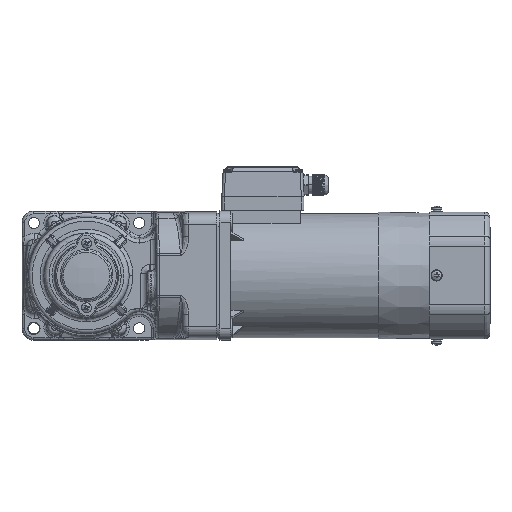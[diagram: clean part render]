
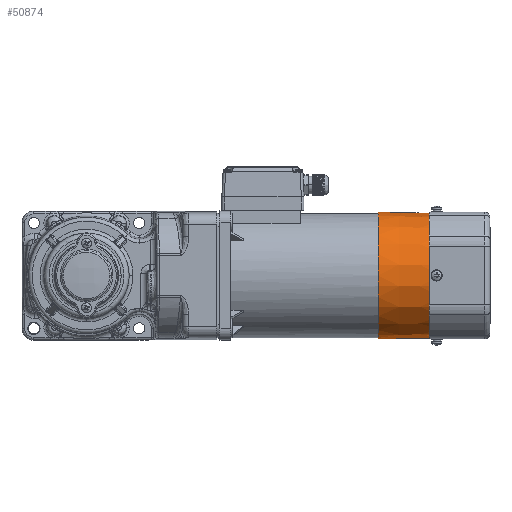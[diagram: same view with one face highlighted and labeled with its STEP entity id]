
A CAD part, top view. The second image highlights one B-rep face of the part: STEP entity #50874.
In plain terms, the highlighted conical face has half-angle 1.005 degrees and reference radius 51 mm.
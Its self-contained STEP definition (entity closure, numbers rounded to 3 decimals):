
#405 = VECTOR ( 'NONE', #30369, 1000. ) ;
#3145 = VERTEX_POINT ( 'NONE', #34652 ) ;
#4246 = CARTESIAN_POINT ( 'NONE',  ( 114.966, -19.101, 126.498 ) ) ;
#6080 = EDGE_CURVE ( 'NONE', #12645, #61389, #80730, .T. ) ;
#8202 = LINE ( 'NONE', #73023, #70675 ) ;
#10469 = CARTESIAN_POINT ( 'NONE',  ( 117.744, -22.731, 126.417 ) ) ;
#11440 = CARTESIAN_POINT ( 'NONE',  ( 116.819, -20.253, 126.461 ) ) ;
#11911 = EDGE_CURVE ( 'NONE', #19024, #12645, #39426, .T. ) ;
#12391 = CARTESIAN_POINT ( 'NONE',  ( 117.624, -21.758, 126.423 ) ) ;
#12645 = VERTEX_POINT ( 'NONE', #63232 ) ;
#18644 = CARTESIAN_POINT ( 'NONE',  ( 113.502, -19.006, 126.479 ) ) ;
#18755 = CIRCLE ( 'NONE', #34110, 51. ) ;
#19024 = VERTEX_POINT ( 'NONE', #64945 ) ;
#19595 = AXIS2_PLACEMENT_3D ( 'NONE', #26386, #25901, #93075 ) ;
#20078 = CARTESIAN_POINT ( 'NONE',  ( 111.015, -20.44, 126.35 ) ) ;
#22892 = DIRECTION ( 'NONE',  ( -1., 0., 0. ) ) ;
#22908 = VECTOR ( 'NONE', #54256, 1000. ) ;
#22915 = CARTESIAN_POINT ( 'NONE',  ( 110.244, -22.484, 126.285 ) ) ;
#25235 = DIRECTION ( 'NONE',  ( 0., 0., 1. ) ) ;
#25838 = CARTESIAN_POINT ( 'NONE',  ( 116.298, -19.732, 126.479 ) ) ;
#25901 = DIRECTION ( 'NONE',  ( -1., 0., 0. ) ) ;
#26322 = CARTESIAN_POINT ( 'NONE',  ( 110.371, -21.756, 126.297 ) ) ;
#26386 = CARTESIAN_POINT ( 'NONE',  ( 144.294, -22.731, 177. ) ) ;
#27753 = CARTESIAN_POINT ( 'NONE',  ( 112.106, -19.454, 126.423 ) ) ;
#28236 = CARTESIAN_POINT ( 'NONE',  ( 110.244, -22.731, 126.285 ) ) ;
#30369 = DIRECTION ( 'NONE',  ( -1., 0., -0.018 ) ) ;
#31490 = B_SPLINE_CURVE_WITH_KNOTS ( 'NONE', 3,
 ( #56986, #77165, #91570, #12391, #71410, #40684, #93472, #41645, #11440, #25838, #85793, #55071, #4246, #70939, #63726, #84373, #18644, #34948, #47907, #27753, #56504, #69980, #20078, #33521, #62743, #55555, #92038, #26322, #84842, #44494, #22915, #28236 ),
 .UNSPECIFIED., .F., .F.,
 ( 4, 2, 2, 2, 2, 2, 2, 2, 2, 2, 2, 2, 2, 2, 2, 4 ),
 ( 0., 0.063, 0.125, 0.188, 0.25, 0.375, 0.438, 0.5, 0.563, 0.625, 0.75, 0.812, 0.875, 0.906, 0.937, 1. ),
 .UNSPECIFIED. ) ;
#32704 = CARTESIAN_POINT ( 'NONE',  ( 93.994, -22.731, 228. ) ) ;
#33521 = CARTESIAN_POINT ( 'NONE',  ( 110.741, -20.85, 126.328 ) ) ;
#34110 = AXIS2_PLACEMENT_3D ( 'NONE', #48712, #77978, #25235 ) ;
#34652 = CARTESIAN_POINT ( 'NONE',  ( 93.994, -22.731, 228. ) ) ;
#34948 = CARTESIAN_POINT ( 'NONE',  ( 113.021, -19.101, 126.464 ) ) ;
#35865 = CARTESIAN_POINT ( 'NONE',  ( 93.994, -22.731, 177. ) ) ;
#36024 = EDGE_CURVE ( 'NONE', #61389, #88955, #31490, .T. ) ;
#39426 = CIRCLE ( 'NONE', #19595, 50.118 ) ;
#40050 = EDGE_CURVE ( 'NONE', #88955, #58856, #8202, .T. ) ;
#40684 = CARTESIAN_POINT ( 'NONE',  ( 117.364, -21.069, 126.437 ) ) ;
#40816 = ORIENTED_EDGE ( 'NONE', *, *, #11911, .T. ) ;
#41645 = CARTESIAN_POINT ( 'NONE',  ( 116.976, -20.444, 126.455 ) ) ;
#41904 = CARTESIAN_POINT ( 'NONE',  ( 110.244, -22.731, 126.285 ) ) ;
#44494 = CARTESIAN_POINT ( 'NONE',  ( 110.269, -22.238, 126.287 ) ) ;
#45694 = EDGE_LOOP ( 'NONE', ( #40816, #69826, #80866, #82029, #83677, #47846 ) ) ;
#47846 = ORIENTED_EDGE ( 'NONE', *, *, #65395, .F. ) ;
#47907 = CARTESIAN_POINT ( 'NONE',  ( 112.788, -19.172, 126.455 ) ) ;
#48712 = CARTESIAN_POINT ( 'NONE',  ( 93.994, -22.731, 177. ) ) ;
#50874 = ADVANCED_FACE ( 'NONE', ( #88615 ), #69960, .T. ) ;
#52131 = DIRECTION ( 'NONE',  ( 0., 0., 1. ) ) ;
#54256 = DIRECTION ( 'NONE',  ( -1., 0., 0.018 ) ) ;
#55071 = CARTESIAN_POINT ( 'NONE',  ( 115.202, -19.173, 126.497 ) ) ;
#55555 = CARTESIAN_POINT ( 'NONE',  ( 110.484, -21.408, 126.306 ) ) ;
#56504 = CARTESIAN_POINT ( 'NONE',  ( 111.692, -19.731, 126.398 ) ) ;
#56986 = CARTESIAN_POINT ( 'NONE',  ( 117.744, -22.731, 126.417 ) ) ;
#58856 = VERTEX_POINT ( 'NONE', #85501 ) ;
#61389 = VERTEX_POINT ( 'NONE', #10469 ) ;
#62743 = CARTESIAN_POINT ( 'NONE',  ( 110.625, -21.068, 126.319 ) ) ;
#63232 = CARTESIAN_POINT ( 'NONE',  ( 144.294, -22.731, 126.882 ) ) ;
#63726 = CARTESIAN_POINT ( 'NONE',  ( 114.242, -18.982, 126.494 ) ) ;
#64945 = CARTESIAN_POINT ( 'NONE',  ( 144.294, -22.731, 227.118 ) ) ;
#65395 = EDGE_CURVE ( 'NONE', #19024, #3145, #67745, .T. ) ;
#66760 = DIRECTION ( 'NONE',  ( -1., 0., -0.018 ) ) ;
#67745 = LINE ( 'NONE', #32704, #22908 ) ;
#69826 = ORIENTED_EDGE ( 'NONE', *, *, #6080, .T. ) ;
#69960 = CONICAL_SURFACE ( 'NONE', #91408, 51., 0.018 ) ;
#69980 = CARTESIAN_POINT ( 'NONE',  ( 111.17, -20.252, 126.362 ) ) ;
#70675 = VECTOR ( 'NONE', #66760, 1000. ) ;
#70939 = CARTESIAN_POINT ( 'NONE',  ( 114.485, -19.006, 126.497 ) ) ;
#71410 = CARTESIAN_POINT ( 'NONE',  ( 117.552, -21.522, 126.427 ) ) ;
#73023 = CARTESIAN_POINT ( 'NONE',  ( 93.994, -22.731, 126. ) ) ;
#73521 = CARTESIAN_POINT ( 'NONE',  ( 93.994, -22.731, 126. ) ) ;
#77165 = CARTESIAN_POINT ( 'NONE',  ( 117.744, -22.485, 126.417 ) ) ;
#77978 = DIRECTION ( 'NONE',  ( 1., 0., 0. ) ) ;
#80129 = EDGE_CURVE ( 'NONE', #58856, #3145, #18755, .T. ) ;
#80730 = LINE ( 'NONE', #73521, #405 ) ;
#80866 = ORIENTED_EDGE ( 'NONE', *, *, #36024, .T. ) ;
#82029 = ORIENTED_EDGE ( 'NONE', *, *, #40050, .T. ) ;
#83677 = ORIENTED_EDGE ( 'NONE', *, *, #80129, .T. ) ;
#84373 = CARTESIAN_POINT ( 'NONE',  ( 113.749, -18.981, 126.486 ) ) ;
#84842 = CARTESIAN_POINT ( 'NONE',  ( 110.342, -21.874, 126.294 ) ) ;
#85501 = CARTESIAN_POINT ( 'NONE',  ( 93.994, -22.731, 126. ) ) ;
#85793 = CARTESIAN_POINT ( 'NONE',  ( 115.885, -19.455, 126.49 ) ) ;
#88615 = FACE_OUTER_BOUND ( 'NONE', #45694, .T. ) ;
#88955 = VERTEX_POINT ( 'NONE', #41904 ) ;
#91408 = AXIS2_PLACEMENT_3D ( 'NONE', #35865, #22892, #52131 ) ;
#91570 = CARTESIAN_POINT ( 'NONE',  ( 117.72, -22.242, 126.418 ) ) ;
#92038 = CARTESIAN_POINT ( 'NONE',  ( 110.442, -21.523, 126.303 ) ) ;
#93075 = DIRECTION ( 'NONE',  ( 0., 0., 1. ) ) ;
#93472 = CARTESIAN_POINT ( 'NONE',  ( 117.25, -20.854, 126.442 ) ) ;
